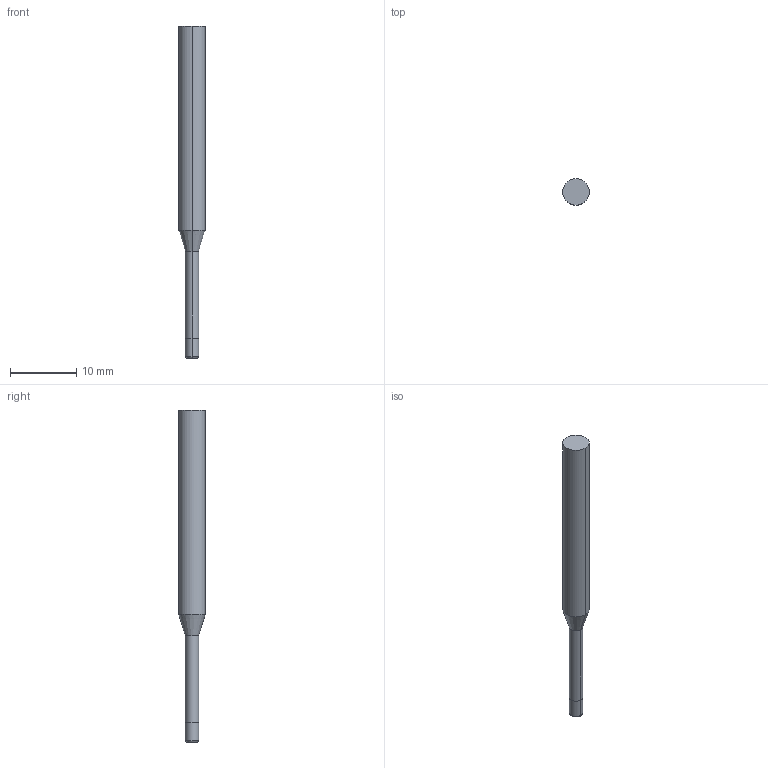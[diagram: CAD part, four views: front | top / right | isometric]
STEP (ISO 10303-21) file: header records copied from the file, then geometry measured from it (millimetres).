
FILE_DESCRIPTION((' '),'2;1');
FILE_NAME( '3MVSM0200R.20N8AH.stp', '2026-01-21T19:27:51', (' '), ('--- Datakit www.datakit.com---'), ' Datakit CrossCadWare V2025.4 Sep 19 2025', 'Mastercam 2027', ' ');
FILE_SCHEMA(('AUTOMOTIVE_DESIGN { 1 0 10303 214 1 1 1 1 }'));
Length unit declared in the file: inch
Products named in the file (1): 3MVSM0200R
Bounding box: 4 x 4 x 50 mm (x, y, z)
Volume: 460.4 mm3; surface area: 534.1 mm2
Topology: 1 solids, 1 shells, 12 faces, 22 edges, 12 vertices
Faces by surface type: cylinder 6, plane 2, torus 2, cone 2
Entity records: 377 total; most frequent: DIRECTION 70, CARTESIAN_POINT 51, ORIENTED_EDGE 44, AXIS2_PLACEMENT_3D 31, EDGE_CURVE 22, CIRCLE 14, VERTEX_POINT 12, EDGE_LOOP 12
